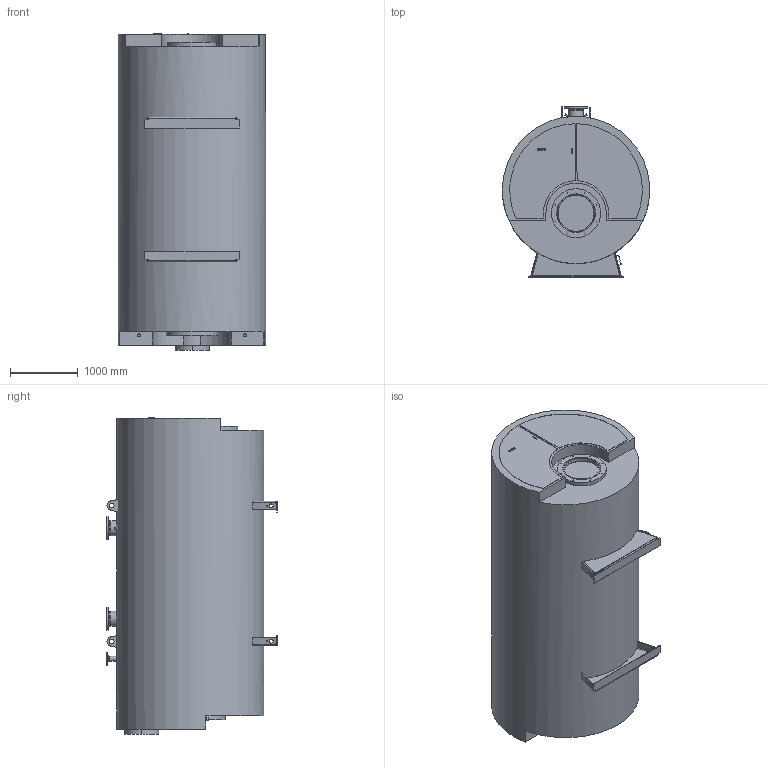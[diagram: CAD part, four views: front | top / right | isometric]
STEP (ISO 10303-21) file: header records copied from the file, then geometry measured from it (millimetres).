
FILE_DESCRIPTION(('TFLEX Exchange Step'),'2;1');
FILE_NAME('M62D003_7550649_H001.stp', '2024-08-07T10:06:55+03:00',('kort'),('Unknown organisation'),'TFLEX Exchange 2024.2','T-FLEX CAD','Unknown authorisation');
FILE_SCHEMA( ('AP242_MANAGED_MODEL_BASED_3D_ENGINEERING_MIM_LF {1 0 10303 442 1 1 4 }') );
Length unit declared in the file: millimetre
Products named in the file (1): 7550649_Grundkessel M62D003_H001
Bounding box: 2168.03 x 2515 x 4659.2 mm (x, y, z)
Volume: 16357655943.4 mm3; surface area: 42688372.6 mm2
Topology: 25 solids, 25 shells, 567 faces, 1465 edges, 1000 vertices
Faces by surface type: plane 306, cylinder 155, bspline 86, torus 12, cone 8
Full cylindrical faces by diameter (mm): 2.2 x4, 3.2 x4, 3.3 x4, 4 x4, 6.5 x4, 10.3 x8, 13 x4, 18 x4, 18.63 x2, 22 x24, 27 x2, 41.3 x2, 47.803 x2, 48.3 x2, 60 x4, 67.1 x1, 70 x2, 70.3 x1, 76.1 x2, 122 x1, 185 x1, 203.1 x2, 206.5 x2, 219.1 x2, 340 x2, 554 x1, 720 x1, 760 x1, 2169 x1
Entity records: 23986 total; most frequent: CARTESIAN_POINT 9677, ORIENTED_EDGE 2930, DIRECTION 2655, EDGE_CURVE 1465, VERTEX_POINT 1000, AXIS2_PLACEMENT_3D 920, VECTOR 815, LINE 815
